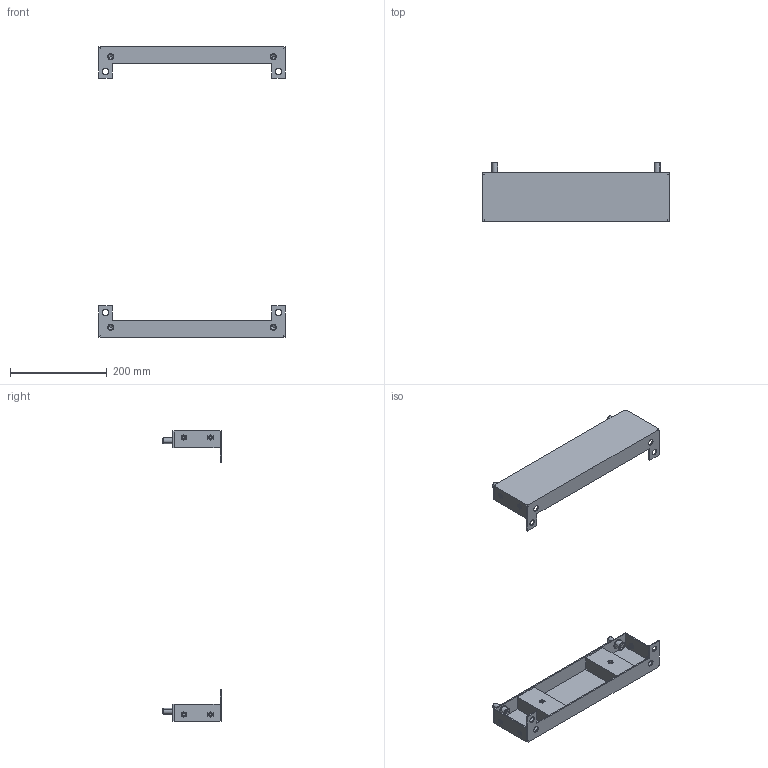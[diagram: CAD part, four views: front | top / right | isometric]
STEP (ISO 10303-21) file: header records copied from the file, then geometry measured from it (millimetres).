
FILE_DESCRIPTION (( 'STEP AP203' ), '1' );
FILE_NAME ('R6PLB45 H=600.STEP', '2025-05-16T11:39:58', ( '' ), ( '' ), 'SwSTEP 2.0', 'SolidWorks 2022', '' );
FILE_SCHEMA (( 'CONFIG_CONTROL_DESIGN' ));
Length unit declared in the file: millimetre
Products named in the file (8): M6 MGS-MPO-0635_straight; RB.3309.00.01.0 simple_-03; 12 DIN 6798 A Zinc; M12x25 DIN 912 HX cl.8,8 Zinc_stright; M6 MGS-MPO-0635_thread; RB.3309.00.00.0 СБ simple_-03; RB.3309.00.02.0 simple; R6PLB45 H=600
Assembly tree (19 placements, depth 3):
  R6PLB45 H=600
    RB.3309.00.00.0 СБ simple_-03  x2
      RB.3309.00.01.0 simple_-03
      M6 MGS-MPO-0635_thread
      RB.3309.00.02.0 simple
      M6 MGS-MPO-0635_straight
    12 DIN 6798 A Zinc  x4
    M12x25 DIN 912 HX cl.8,8 Zinc_stright  x4
Bounding box: 386.7 x 121.5 x 600 mm (x, y, z)
Volume: 476550.8 mm3; surface area: 394025.4 mm2
Topology: 26 solids, 26 shells, 1568 faces, 4128 edges, 2388 vertices
Faces by surface type: plane 640, cylinder 544, bspline 168, sphere 144, cone 40, torus 32
Entity records: 15002 total; most frequent: CARTESIAN_POINT 5755, ORIENTED_EDGE 1768, DIRECTION 1539, EDGE_CURVE 884, VERTEX_POINT 558, VECTOR 533, LINE 533, AXIS2_PLACEMENT_3D 503
